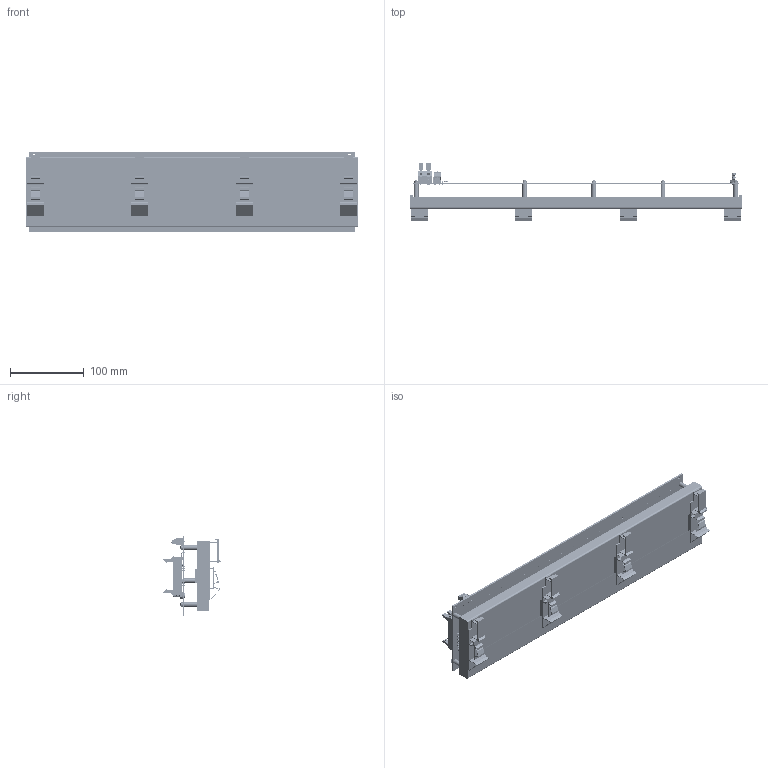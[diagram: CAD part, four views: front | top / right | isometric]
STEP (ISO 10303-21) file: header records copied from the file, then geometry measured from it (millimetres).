
FILE_DESCRIPTION (( 'STEP AP214' ), '1' );
FILE_NAME ('SCMVAS-PB16D.STEP', '2017-03-29T17:56:21', ( '' ), ( '' ), 'SwSTEP 2.0', 'SolidWorks 2017', '' );
FILE_SCHEMA (( 'AUTOMOTIVE_DESIGN' ));
Length unit declared in the file: millimetre
Products named in the file (1): SCMVAS-PB16D
Bounding box: 451.3 x 78 x 107.95 mm (x, y, z)
Volume: 413585.8 mm3; surface area: 518041.7 mm2
Topology: 144 solids, 146 shells, 8198 faces, 21763 edges, 14070 vertices
Faces by surface type: cylinder 3540, plane 3475, bspline 696, cone 343, torus 106, sphere 38
Entity records: 393425 total; most frequent: CARTESIAN_POINT 107769, ORIENTED_EDGE 43524, DIRECTION 35965, EDGE_CURVE 21762, VERTEX_POINT 14070, LINE 12549, VECTOR 12549, AXIS2_PLACEMENT_3D 11708
